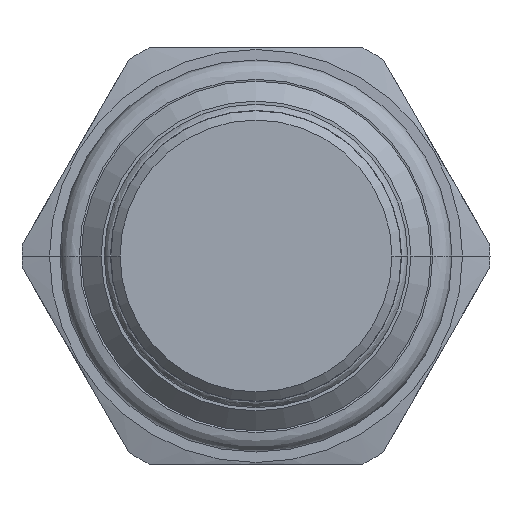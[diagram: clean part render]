
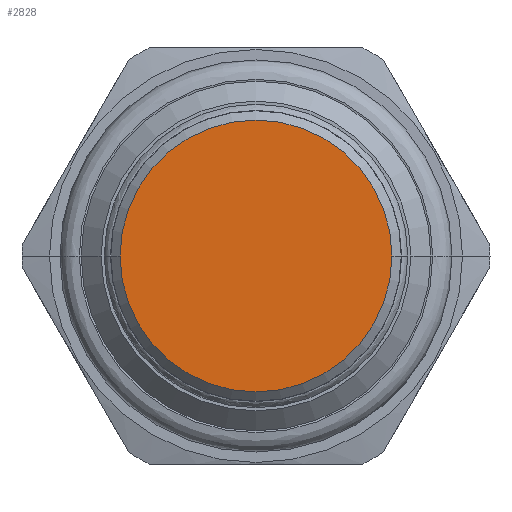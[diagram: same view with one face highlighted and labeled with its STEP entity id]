
A CAD part, front view. The second image highlights one B-rep face of the part: STEP entity #2828.
In plain terms, the highlighted planar face has unit normal (0, -1, 0).
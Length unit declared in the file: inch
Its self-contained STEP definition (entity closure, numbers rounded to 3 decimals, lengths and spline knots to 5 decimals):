
#1084=CARTESIAN_POINT('',(0.,-1.81,0.));
#1085=DIRECTION('',(0.,-1.,0.));
#1086=DIRECTION('',(-1.,0.,0.));
#1087=AXIS2_PLACEMENT_3D('',#1084,#1085,#1086);
#1108=CARTESIAN_POINT('',(0.,-1.81,0.));
#1109=DIRECTION('',(0.,1.,0.));
#1110=DIRECTION('',(-1.,0.,0.));
#1111=AXIS2_PLACEMENT_3D('',#1108,#1109,#1110);
#1317=CARTESIAN_POINT('',(-0.408,-1.81,0.));
#1318=CARTESIAN_POINT('',(0.408,-1.81,0.));
#1319=VERTEX_POINT('',#1317);
#1320=VERTEX_POINT('',#1318);
#2819=CARTESIAN_POINT('',(0.,-1.81,0.));
#2820=DIRECTION('',(0.,1.,0.));
#2821=DIRECTION('',(1.,0.,0.));
#2822=AXIS2_PLACEMENT_3D('',#2819,#2820,#2821);
#2823=PLANE('',#2822);
#2824=ORIENTED_EDGE('',*,*,#2797,.F.);
#2825=ORIENTED_EDGE('',*,*,#2813,.T.);
#2826=EDGE_LOOP('',(#2824,#2825));
#2827=FACE_OUTER_BOUND('',#2826,.F.);
#2828=ADVANCED_FACE('',(#2827),#2823,.F.);
#1088=CIRCLE('',#1087,0.408);
#1112=CIRCLE('',#1111,0.408);
#2797=EDGE_CURVE('',#1319,#1320,#1088,.T.);
#2813=EDGE_CURVE('',#1319,#1320,#1112,.T.);
